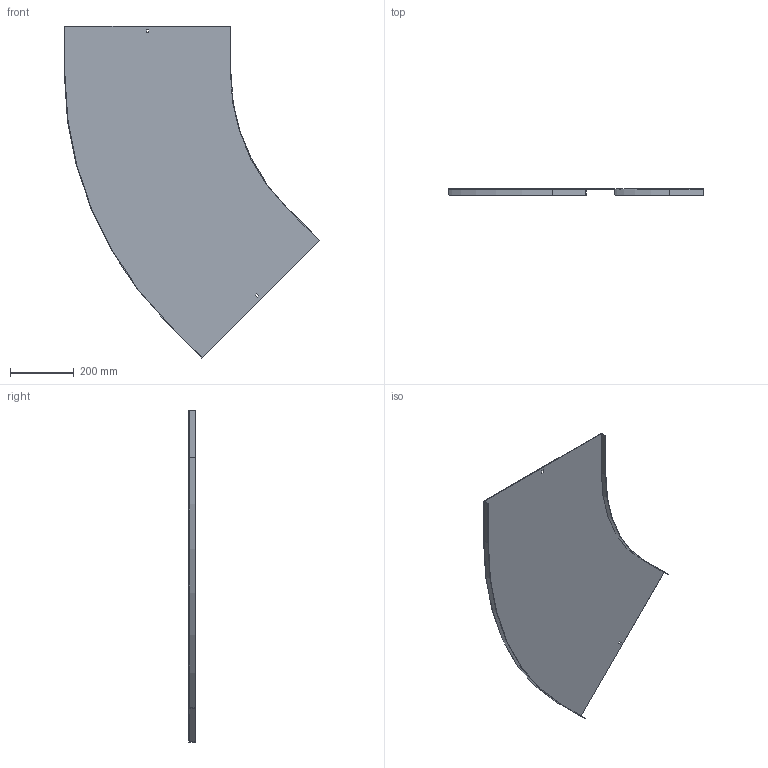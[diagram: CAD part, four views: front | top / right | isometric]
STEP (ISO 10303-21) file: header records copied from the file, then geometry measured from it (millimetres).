
FILE_DESCRIPTION (( 'STEP AP214' ), '1' );
FILE_NAME ('11N6P500.step', '2025-02-21T13:35:37', ( '' ), ( '' ), 'SwSTEP 2.0', 'SolidWorks 2023', '' );
FILE_SCHEMA (( 'AUTOMOTIVE_DESIGN' ));
Length unit declared in the file: millimetre
Products named in the file (1): 11N6P500
Bounding box: 801.43 x 20 x 1042.02 mm (x, y, z)
Volume: 812598.8 mm3; surface area: 1088140.8 mm2
Topology: 1 solids, 1 shells, 26 faces, 72 edges, 48 vertices
Faces by surface type: plane 22, cylinder 4
Entity records: 855 total; most frequent: CARTESIAN_POINT 147, ORIENTED_EDGE 144, DIRECTION 134, EDGE_CURVE 72, VECTOR 64, LINE 64, VERTEX_POINT 48, AXIS2_PLACEMENT_3D 35
